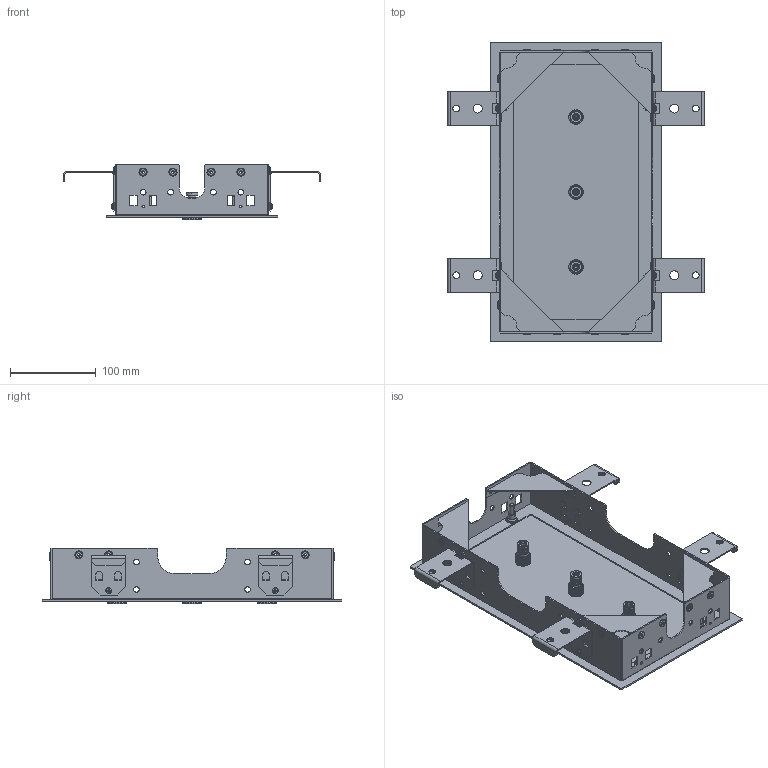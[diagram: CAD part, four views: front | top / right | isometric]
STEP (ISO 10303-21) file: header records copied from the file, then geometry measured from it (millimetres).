
FILE_DESCRIPTION((''),'2;1');
FILE_NAME('F2815_FILE_3D','2018-03-02T',('ivanv'),(''),'CREO PARAMETRIC BY PTC INC, 2016260','CREO PARAMETRIC BY PTC INC, 2016260','');
FILE_SCHEMA(('CONFIG_CONTROL_DESIGN'));
Products named in the file (1): F2815_FILE_3D
Bounding box: 300 x 350 x 65.44 mm (x, y, z)
Volume: 295633.1 mm3; surface area: 307103.3 mm2
Topology: 4 solids, 4 shells, 1560 faces, 4090 edges, 2497 vertices
Faces by surface type: cylinder 555, plane 497, bspline 222, torus 144, cone 72, sphere 70
Entity records: 90778 total; most frequent: CARTESIAN_POINT 54595, ORIENTED_EDGE 8030, DIRECTION 6826, EDGE_CURVE 4015, AXIS2_PLACEMENT_3D 2527, VERTEX_POINT 2497, VECTOR 1772, LINE 1772
